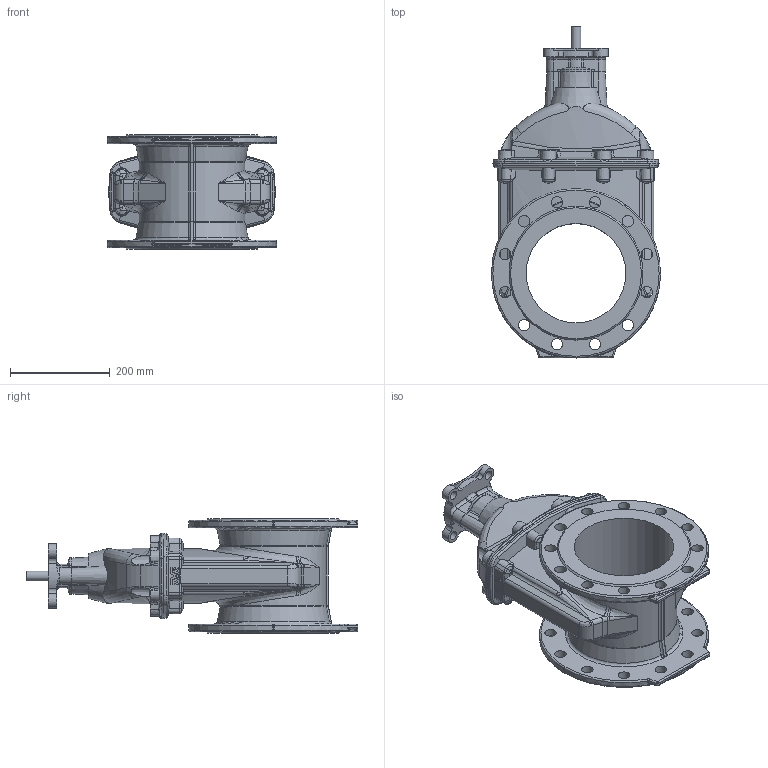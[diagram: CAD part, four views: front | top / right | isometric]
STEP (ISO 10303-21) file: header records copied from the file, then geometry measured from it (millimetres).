
FILE_DESCRIPTION (( 'STEP AP203' ), '1' );
FILE_NAME ('O_06_42_DN200_X1XXX_REV02.step', '2025-12-18T06:58:50', ( '' ), ( '' ), 'SwSTEP 2.0', 'SolidWorks 2022', '' );
FILE_SCHEMA (( 'CONFIG_CONTROL_DESIGN' ));
Length unit declared in the file: millimetre
Products named in the file (1): O_06_42_DN200_X1XXX_REV02
Bounding box: 339.99 x 667 x 230 mm (x, y, z)
Volume: 11683558.4 mm3; surface area: 847982.5 mm2
Topology: 1 solids, 1 shells, 692 faces, 1807 edges, 1095 vertices
Faces by surface type: plane 171, cylinder 171, bspline 162, cone 90, torus 84, sphere 14
Full cylindrical faces by diameter (mm): 18 x4, 20 x1, 22 x4, 23 x24, 103 x1, 200 x1
Entity records: 28032 total; most frequent: CARTESIAN_POINT 13040, ORIENTED_EDGE 3392, DIRECTION 2731, EDGE_CURVE 1696, AXIS2_PLACEMENT_3D 1124, VERTEX_POINT 1061, EDGE_LOOP 805, FACE_OUTER_BOUND 735
